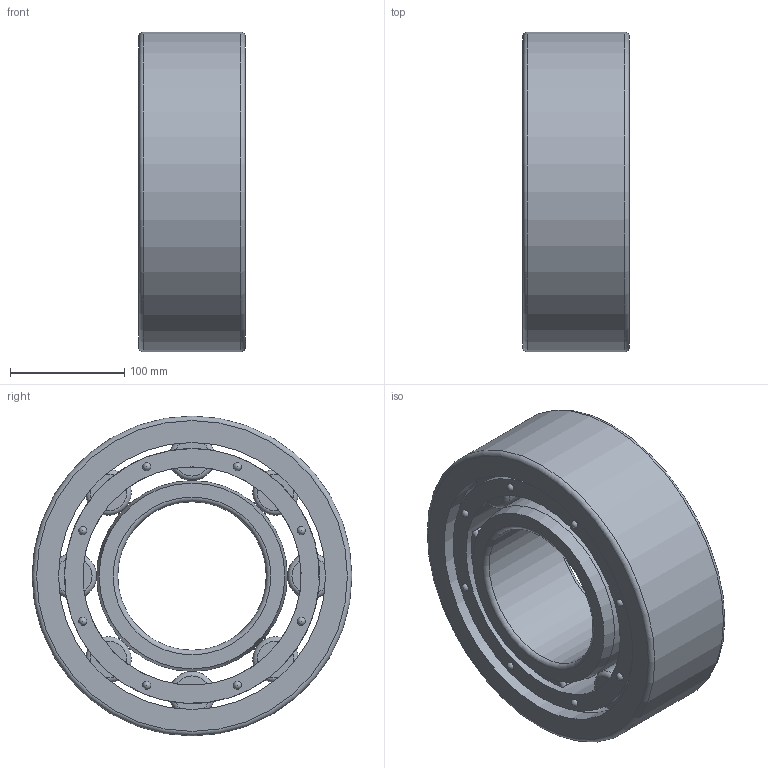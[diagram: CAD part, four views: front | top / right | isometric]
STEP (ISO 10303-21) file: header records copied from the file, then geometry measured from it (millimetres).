
FILE_DESCRIPTION(/* description */ (''),/* implementation_level */ '2;1');
FILE_NAME(/* name */ 'D:\moje\parametrické\RADIALN VALCEKY\NU\NU23--_\NU23--_\NU2326M.stp',/* time_stamp */ '2016-04-22T12:32:24+02:00',/* author */ ('OUBALASKO'),/* organization */ (''),/* preprocessor_version */ 'ST-DEVELOPER v15.2',/* originating_system */ 'Autodesk Inventor 2014',/* authorisation */ '');
FILE_SCHEMA (('AUTOMOTIVE_DESIGN { 1 0 10303 214 3 1 1 }'));
Length unit declared in the file: millimetre
Products named in the file (8): NU2326M-02; NU2326M-roller; NU2326M-01; NU2326M-M,EMcage01; NU2326M-M,EMcage02; NU2326M-M,EMcage03; NU2326M-M,EMcage; NU2326M
Bounding box: 93 x 280 x 280 mm (x, y, z)
Volume: 3345647 mm3; surface area: 522349.1 mm2
Topology: 20 solids, 20 shells, 153 faces, 330 edges, 218 vertices
Faces by surface type: cylinder 58, plane 57, torus 20, sphere 16, cone 2
Full cylindrical faces by diameter (mm): 4 x24, 40 x8, 130 x1, 167 x1, 191 x2, 223 x2, 233.667 x2, 247 x1, 280 x1
Entity records: 2625 total; most frequent: DIRECTION 512, CARTESIAN_POINT 400, ORIENTED_EDGE 320, AXIS2_PLACEMENT_3D 240, EDGE_LOOP 162, EDGE_CURVE 160, CIRCLE 128, VERTEX_POINT 128
